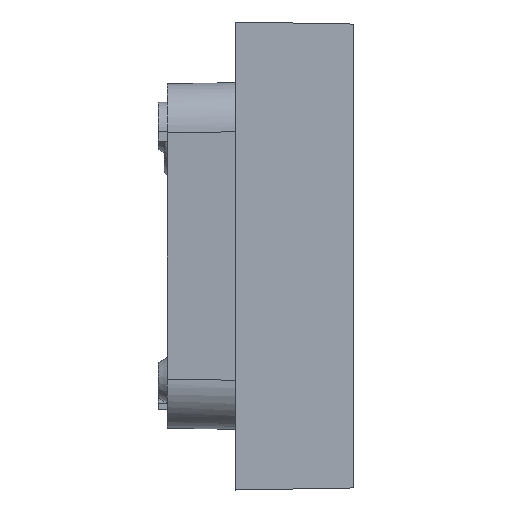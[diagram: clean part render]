
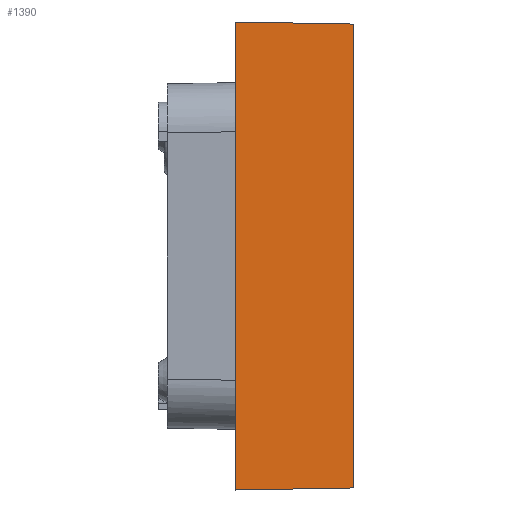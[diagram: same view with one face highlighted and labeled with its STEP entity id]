
A CAD part, front view. The second image highlights one B-rep face of the part: STEP entity #1390.
In plain terms, the highlighted planar face has unit normal (0.018, -1, 0).
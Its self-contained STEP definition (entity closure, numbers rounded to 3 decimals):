
#35 = CARTESIAN_POINT ( 'NONE',  ( 35.25, -470.662, -121.082 ) ) ;
#161 = FACE_OUTER_BOUND ( 'NONE', #7450, .T. ) ;
#204 = ORIENTED_EDGE ( 'NONE', *, *, #3964, .F. ) ;
#485 = CARTESIAN_POINT ( 'NONE',  ( 35.25, -470.662, -87.912 ) ) ;
#723 = VERTEX_POINT ( 'NONE', #485 ) ;
#816 = DIRECTION ( 'NONE',  ( 0., 0., 1. ) ) ;
#1390 = ADVANCED_FACE ( 'NONE', ( #161 ), #4777, .T. ) ;
#1533 = DIRECTION ( 'NONE',  ( 1., 0.017, 0.017 ) ) ;
#1801 = VERTEX_POINT ( 'NONE', #10241 ) ;
#1879 = DIRECTION ( 'NONE',  ( 0., 0., -1. ) ) ;
#1893 = ORIENTED_EDGE ( 'NONE', *, *, #7050, .T. ) ;
#2295 = LINE ( 'NONE', #11511, #2980 ) ;
#2950 = CARTESIAN_POINT ( 'NONE',  ( -2.178, -471.315, 62.065 ) ) ;
#2980 = VECTOR ( 'NONE', #1533, 1000. ) ;
#3287 = VECTOR ( 'NONE', #7982, 1000. ) ;
#3539 = LINE ( 'NONE', #35, #4246 ) ;
#3850 = AXIS2_PLACEMENT_3D ( 'NONE', #10083, #6539, #1879 ) ;
#3964 = EDGE_CURVE ( 'NONE', #11409, #11278, #8859, .T. ) ;
#4206 = CARTESIAN_POINT ( 'NONE',  ( -2.75, -471.325, -13.25 ) ) ;
#4246 = VECTOR ( 'NONE', #816, 1000. ) ;
#4485 = ORIENTED_EDGE ( 'NONE', *, *, #10325, .F. ) ;
#4777 = PLANE ( 'NONE',  #3850 ) ;
#6539 = DIRECTION ( 'NONE',  ( 0.017, -1., 0. ) ) ;
#7050 = EDGE_CURVE ( 'NONE', #11409, #723, #2295, .T. ) ;
#7450 = EDGE_LOOP ( 'NONE', ( #8846, #4485, #204, #1893 ) ) ;
#7982 = DIRECTION ( 'NONE',  ( 0., 0., 1. ) ) ;
#8172 = CARTESIAN_POINT ( 'NONE',  ( -2.75, -471.325, -88.575 ) ) ;
#8846 = ORIENTED_EDGE ( 'NONE', *, *, #9374, .T. ) ;
#8859 = LINE ( 'NONE', #4206, #3287 ) ;
#8925 = VECTOR ( 'NONE', #11149, 1000. ) ;
#9334 = LINE ( 'NONE', #2950, #8925 ) ;
#9374 = EDGE_CURVE ( 'NONE', #723, #1801, #3539, .T. ) ;
#10083 = CARTESIAN_POINT ( 'NONE',  ( -3.492, -471.338, -13.25 ) ) ;
#10241 = CARTESIAN_POINT ( 'NONE',  ( 35.25, -470.662, 61.412 ) ) ;
#10325 = EDGE_CURVE ( 'NONE', #11278, #1801, #9334, .T. ) ;
#10477 = CARTESIAN_POINT ( 'NONE',  ( -2.75, -471.325, 62.075 ) ) ;
#11149 = DIRECTION ( 'NONE',  ( 1., 0.017, -0.017 ) ) ;
#11278 = VERTEX_POINT ( 'NONE', #10477 ) ;
#11409 = VERTEX_POINT ( 'NONE', #8172 ) ;
#11511 = CARTESIAN_POINT ( 'NONE',  ( -2.178, -471.315, -88.565 ) ) ;
